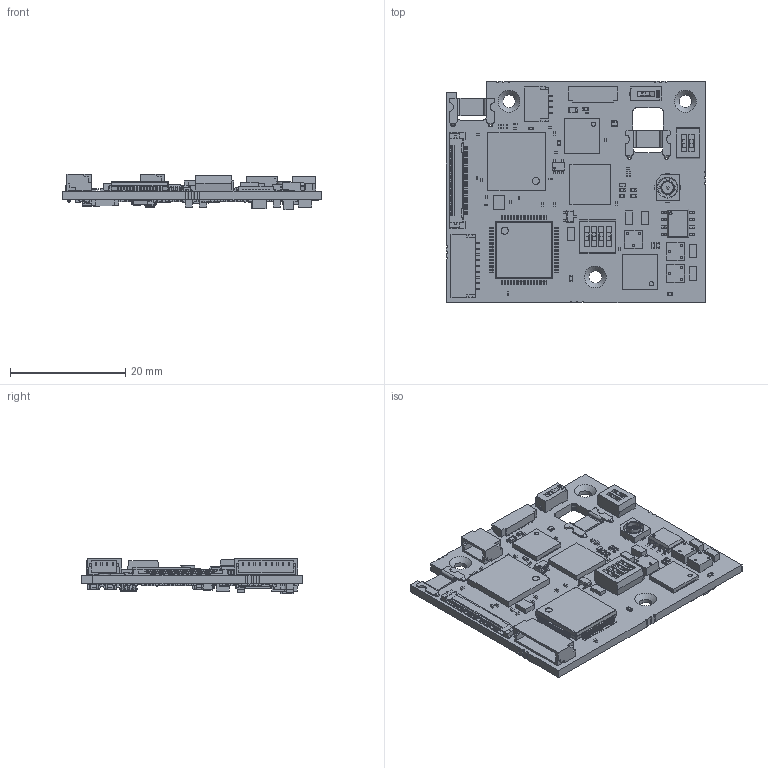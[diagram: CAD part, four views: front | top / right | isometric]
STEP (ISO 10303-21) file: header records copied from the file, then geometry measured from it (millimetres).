
FILE_DESCRIPTION( ( 'Unknown' ), '1' );
FILE_NAME( 'Q:/2003/Product3DCADModels/mm-ap23c01-0084-0101.stp', 'Unknown', ( 'Unknown' ), ( 'Unknown' ), 'PSStep 17.0.49', 'Unknown', ' ' );
FILE_SCHEMA( ( 'AUTOMOTIVE_DESIGN { 1 0 10303 214 1 1 1 1 }' ) );
Length unit declared in the file: millimetre
Products named in the file (360): Body-4; Open_CASCADE_STEP_translator_6.8_13.2.1; Pin_Shape-2; Open_CASCADE_STEP_translator_6.8_19.4.1; Terminal; Open_CASCADE_STEP_translator_6.8_25.1.1; Open_CASCADE_STEP_translator_6.8_25.1.2; Pin_Shape; Open_CASCADE_STEP_translator_6.8_9.4.1; Body-2; Open_CASCADE_STEP_translator_6.8_2.2.1; Mid_Body; Open_CASCADE_STEP_translator_6.8_25.2.1; Body-3; Open_CASCADE_STEP_translator_6.8_19.2.1; Body; Open_CASCADE_STEP_translator_6.8_9.2.1; Pin_Shape-1; Open_CASCADE_STEP_translator_6.8_12.4.1; Body-1; Open_CASCADE_STEP_translator_6.8_12.2.1; 2093853824; Thermal_Shape; Open_CASCADE_STEP_translator_6.8_19.1; CHS-01TA; _CHS-01-J-body; _CHS-slider; WE-KI-0402A-rev1; Leitfläche; Keramik; 1531119664; Extruded; 1531119256; 1531121024; 1531120072; 2144584368; 1531120752; 2093854080; 1531119528; 1531119392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
Assembly tree (1222 placements, depth 5):
  Assem1
    Board
    clip-01  x2
    SW2
    R113
      1531119256
        Extruded
    R112
      1531119256
        Extruded
    R111
      1531119392
        Extruded
    SP2
      SLP2510P8
      SLP2510P8
      SLP2510P8
      SLP2510P8
      SLP2510P8
      SLP2510P8
    R99
      1531119392
        Extruded
    R98
      1531119256
        Extruded
    Z14
      1531120752
        Extruded
    R13
      1531119256
        Extruded
    U15
      2043340864
        Thermal_Shape
        Open_CASCADE_STEP_translator_6.8_9.1
        Body
          Open_CASCADE_STEP_translator_6.8_9.2.1
        Pin_Shape  x40
          Open_CASCADE_STEP_translator_6.8_9.4.1
    U14
      sc70-3
    R88
      1531119392
        Extruded
    R87
      1531119256
        Extruded
    R86
      1531119392
        Extruded
    R85
      1531119392
        Extruded
    R84
      1531119256
        Extruded
    R82
      1531119256
        Extruded
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Bounding box: 45.01 x 38.51 x 6.25 mm (x, y, z)
Surface area: 7431 mm2 (no closed solid volume)
Topology: 0 solids, 8770 shells, 8770 faces, 42657 edges, 42196 vertices
Faces by surface type: plane 7290, cylinder 1043, sphere 369, bspline 30, torus 21, revolution 10, cone 7
Full cylindrical faces by diameter (mm): 0.023 x28, 0.164 x2, 0.2 x1, 0.432 x1, 0.5 x2, 0.512 x1, 0.75 x2, 0.8 x4, 1.25 x2, 2 x1, 2.2 x4, 2.4 x2, 3.4 x1
Entity records: 189967 total; most frequent: CARTESIAN_POINT 37747, DIRECTION 26279, VERTEX_POINT 15427, ORIENTED_EDGE 15417, EDGE_CURVE 15417, LINE 12972, VECTOR 12972, AXIS2_PLACEMENT_3D 6651
